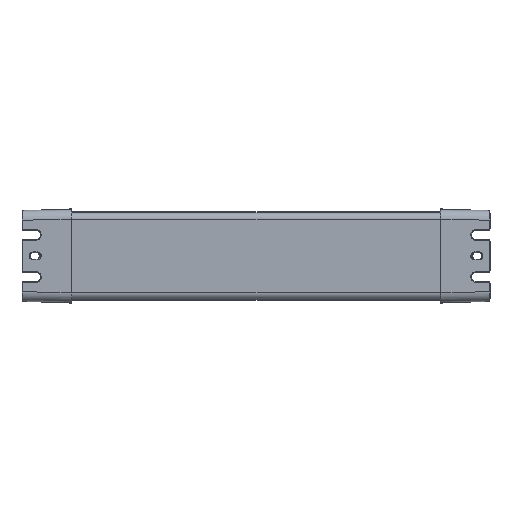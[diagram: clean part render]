
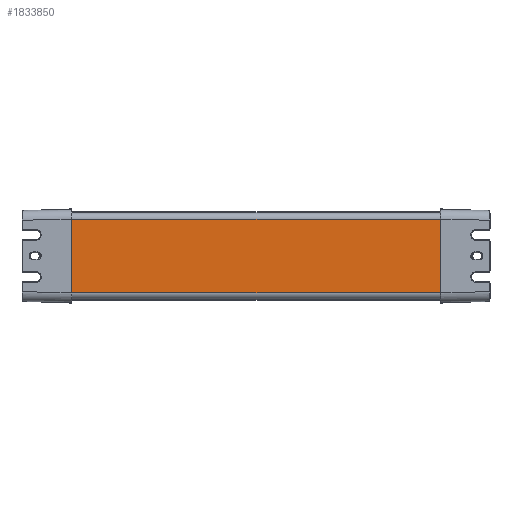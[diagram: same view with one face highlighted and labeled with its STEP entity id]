
A CAD part, top view. The second image highlights one B-rep face of the part: STEP entity #1833850.
In plain terms, the highlighted planar face has unit normal (0, 0, 1) as drawn and (0, 0, -1) by its records, which use the part's own axes.
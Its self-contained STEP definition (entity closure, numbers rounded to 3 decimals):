
#883130=CARTESIAN_POINT('',(75.59,34.786,
-20.5));
#883140=VERTEX_POINT('',#883130);
#883170=CARTESIAN_POINT('',(75.59,-22.989,
-20.5));
#883180=DIRECTION('',(0.,1.,0.));
#883190=VECTOR('',#883180,1.);
#883200=LINE('',#883170,#883190);
#883210=CARTESIAN_POINT('',(75.59,-20.414,
-20.5));
#883220=VERTEX_POINT('',#883210);
#883230=EDGE_CURVE('',#883220,#883140,#883200,.T.);
#890710=CARTESIAN_POINT('',(-202.01,-20.414,
-20.5));
#890720=VERTEX_POINT('',#890710);
#890750=CARTESIAN_POINT('',(-202.01,-22.989,
-20.5));
#890760=DIRECTION('',(0.,-1.,0.));
#890770=VECTOR('',#890760,1.);
#890780=LINE('',#890750,#890770);
#890790=CARTESIAN_POINT('',(-202.01,34.786,
-20.5));
#890800=VERTEX_POINT('',#890790);
#890810=EDGE_CURVE('',#890800,#890720,#890780,.T.);
#1833590=CARTESIAN_POINT('',(-218.71,-20.414,
-20.5));
#1833600=DIRECTION('',(1.,0.,0.));
#1833610=VECTOR('',#1833600,1.);
#1833620=LINE('',#1833590,#1833610);
#1833630=EDGE_CURVE('',#890720,#883220,#1833620,.T.);
#1833690=CARTESIAN_POINT('',(-218.71,7.186,
-20.5));
#1833700=DIRECTION('',(0.,0.,-1.));
#1833710=DIRECTION('',(0.,1.,0.));
#1833720=AXIS2_PLACEMENT_3D('',#1833690,#1833700,#1833710);
#1833730=PLANE('',#1833720);
#1833740=ORIENTED_EDGE('',*,*,#1833630,.F.);
#1833750=ORIENTED_EDGE('',*,*,#883230,.F.);
#1833760=CARTESIAN_POINT('',(-218.71,34.786,
-20.5));
#1833770=DIRECTION('',(1.,0.,0.));
#1833780=VECTOR('',#1833770,1.);
#1833790=LINE('',#1833760,#1833780);
#1833800=EDGE_CURVE('',#890800,#883140,#1833790,.T.);
#1833810=ORIENTED_EDGE('',*,*,#1833800,.T.);
#1833820=ORIENTED_EDGE('',*,*,#890810,.F.);
#1833830=EDGE_LOOP('',(#1833820,#1833810,#1833750,#1833740));
#1833840=FACE_OUTER_BOUND('',#1833830,.T.);
#1833850=ADVANCED_FACE('',(#1833840),#1833730,.T.);
